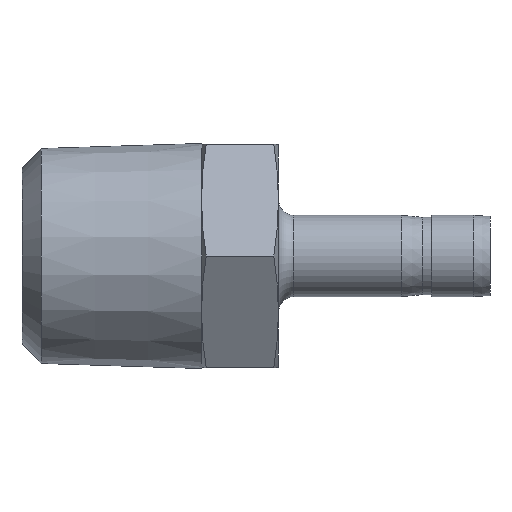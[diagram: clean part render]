
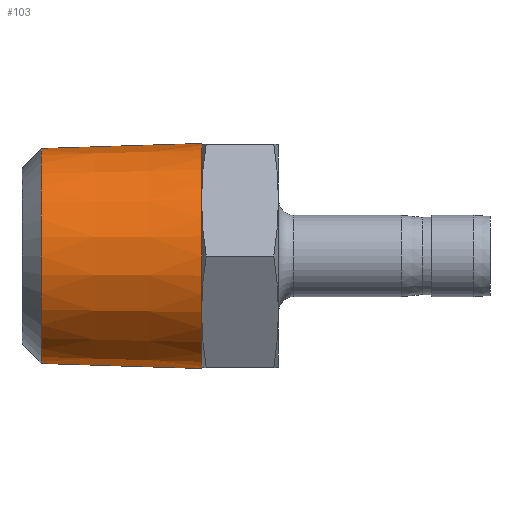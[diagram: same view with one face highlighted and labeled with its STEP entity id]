
A CAD part, front view. The second image highlights one B-rep face of the part: STEP entity #103.
In plain terms, the highlighted conical face has half-angle 1.8 degrees and reference radius 8.527 mm.
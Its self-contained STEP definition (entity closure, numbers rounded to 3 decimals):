
#93 = VERTEX_POINT ( 'NONE', #544 ) ;
#103 = ADVANCED_FACE ( 'NONE', ( #527 ), #525, .T. ) ;
#104 = ORIENTED_EDGE ( 'NONE', *, *, #105, .T. ) ;
#105 = EDGE_CURVE ( 'NONE', #161, #93, #610, .T. ) ;
#106 = ORIENTED_EDGE ( 'NONE', *, *, #107, .T. ) ;
#107 = EDGE_CURVE ( 'NONE', #93, #108, #605, .T. ) ;
#108 = VERTEX_POINT ( 'NONE', #601 ) ;
#109 = ORIENTED_EDGE ( 'NONE', *, *, #110, .T. ) ;
#110 = EDGE_CURVE ( 'NONE', #108, #111, #600, .T. ) ;
#111 = VERTEX_POINT ( 'NONE', #595 ) ;
#112 = ORIENTED_EDGE ( 'NONE', *, *, #113, .F. ) ;
#113 = EDGE_CURVE ( 'NONE', #161, #111, #594, .T. ) ;
#152 = EDGE_LOOP ( 'NONE', ( #104, #106, #109, #112 ) ) ;
#161 = VERTEX_POINT ( 'NONE', #725 ) ;
#522 = DIRECTION ( 'NONE',  ( 0., 0., 1. ) ) ;
#523 = DIRECTION ( 'NONE',  ( 1., 0., 0. ) ) ;
#524 = AXIS2_PLACEMENT_3D ( 'NONE', #526, #523, #522 ) ;
#525 = CONICAL_SURFACE ( 'NONE', #524, 8.527, 0.031 ) ;
#526 = CARTESIAN_POINT ( 'NONE',  ( -7.9, 0., 0. ) ) ;
#527 = FACE_OUTER_BOUND ( 'NONE', #152, .T. ) ;
#544 = CARTESIAN_POINT ( 'NONE',  ( -12.501, 0., -8.383 ) ) ;
#591 = DIRECTION ( 'NONE',  ( 1., 0., 0.031 ) ) ;
#592 = VECTOR ( 'NONE', #591, 1000. ) ;
#593 = CARTESIAN_POINT ( 'NONE',  ( -7.9, 0., 8.527 ) ) ;
#594 = LINE ( 'NONE', #593, #592 ) ;
#595 = CARTESIAN_POINT ( 'NONE',  ( 0., 0., 8.776 ) ) ;
#596 = DIRECTION ( 'NONE',  ( 0., 0., 1. ) ) ;
#597 = DIRECTION ( 'NONE',  ( -1., 0., 0. ) ) ;
#598 = CARTESIAN_POINT ( 'NONE',  ( 0., 0., 0. ) ) ;
#599 = AXIS2_PLACEMENT_3D ( 'NONE', #598, #597, #596 ) ;
#600 = CIRCLE ( 'NONE', #599, 8.776 ) ;
#601 = CARTESIAN_POINT ( 'NONE',  ( 0., 0., -8.776 ) ) ;
#602 = DIRECTION ( 'NONE',  ( 1., 0., -0.031 ) ) ;
#603 = VECTOR ( 'NONE', #602, 1000. ) ;
#604 = CARTESIAN_POINT ( 'NONE',  ( -7.9, 0., -8.527 ) ) ;
#605 = LINE ( 'NONE', #604, #603 ) ;
#606 = DIRECTION ( 'NONE',  ( 0., 0., -1. ) ) ;
#607 = DIRECTION ( 'NONE',  ( 1., 0., 0. ) ) ;
#608 = CARTESIAN_POINT ( 'NONE',  ( -12.501, 0., 0. ) ) ;
#609 = AXIS2_PLACEMENT_3D ( 'NONE', #608, #607, #606 ) ;
#610 = CIRCLE ( 'NONE', #609, 8.383 ) ;
#725 = CARTESIAN_POINT ( 'NONE',  ( -12.501, 0., 8.383 ) ) ;
